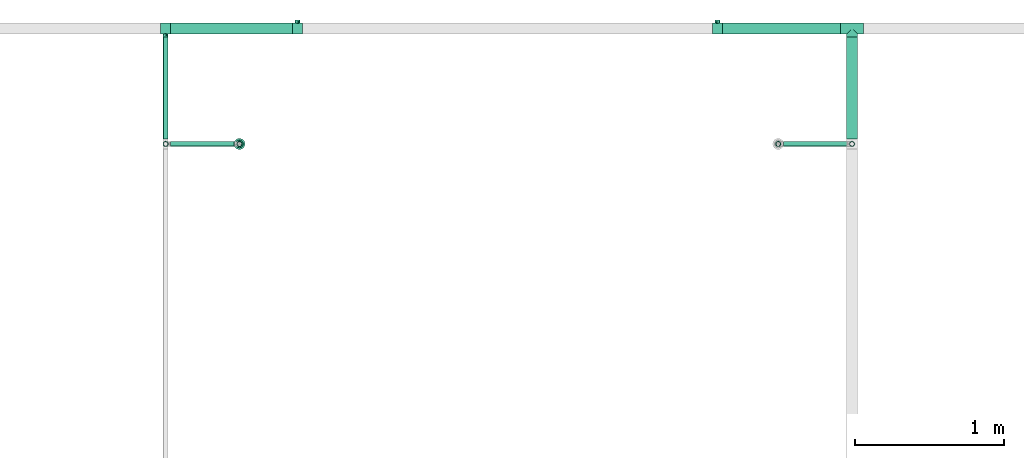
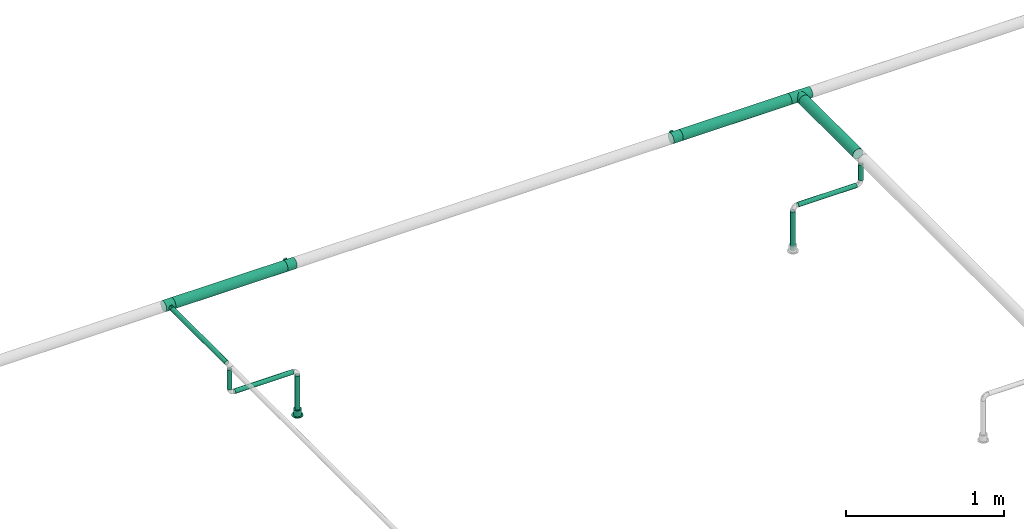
# One storey, part 35 of 95: 10 flow segments, 4 flow fittings, 1 flow terminal.
"""IFC2X3 building model written with IfcOpenShell, lengths in millimetres."""

from ifc_helpers import new_model, entity, si_unit, converted_unit, derived_unit, direction, frame, origin_with_axes, origin_2d_with_axis, place, context, subcontext, project, spatial, hollow_circle, extrude, open_shell, surface_model, source, transform, mapped, type_object, element, save


model = new_model("IFC2X3")

# Units and contexts
model_context = context("Model", 3, precision=0.01, world=frame((0.0, 4.29681676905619e-09, 0.0)), true_north=direction((4.01073788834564e-13, 1.0)))
plan_context = context("Plan", 3, precision=0.01, world=frame((0.0, 4.29681676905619e-09, 0.0)), true_north=direction((4.01073788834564e-13, 1.0)))
body_context = subcontext(model_context, "Body", "Model", "MODEL_VIEW")
ifc_project = project(units=[converted_unit("PLANEANGLEUNIT", "DEGREE", entity("IfcPositiveLengthMeasure", 0.0174532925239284), si_unit("PLANEANGLEUNIT", "RADIAN"), dimensions=[0, 0, 0, 0, 0, 0, 0]), si_unit("AREAUNIT", "SQUARE_METRE"), si_unit("LENGTHUNIT", "METRE", prefix="MILLI"), si_unit("MASSUNIT", "GRAM", prefix="KILO"), si_unit("POWERUNIT", "WATT"), si_unit("PRESSUREUNIT", "PASCAL"), si_unit("FORCEUNIT", "NEWTON", prefix="KILO"), si_unit("ELECTRICVOLTAGEUNIT", "VOLT"), si_unit("ELECTRICCURRENTUNIT", "AMPERE"), si_unit("THERMODYNAMICTEMPERATUREUNIT", "DEGREE_CELSIUS"), si_unit("TIMEUNIT", "SECOND"), si_unit("VOLUMEUNIT", "CUBIC_METRE"), derived_unit("LINEARVELOCITYUNIT", [(si_unit("LENGTHUNIT", "METRE"), 1), (si_unit("TIMEUNIT", "SECOND"), -1)]), derived_unit("VOLUMETRICFLOWRATEUNIT", [(si_unit("VOLUMEUNIT", "CUBIC_METRE"), 1), (si_unit("TIMEUNIT", "SECOND"), -1)]), derived_unit("THERMALTRANSMITTANCEUNIT", [(si_unit("POWERUNIT", "WATT"), 1), (si_unit("THERMODYNAMICTEMPERATUREUNIT", "KELVIN"), -1), (si_unit("AREAUNIT", "SQUARE_METRE"), -1)]), derived_unit("SOUNDPRESSUREUNIT", [(si_unit("PRESSUREUNIT", "PASCAL"), 1)])], contexts=[model_context, plan_context])

# Site, building, storey
site_placement = place(None, frame((0.0, -4.29681676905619e-09, 0.0), z_axis=(0.0, 0.0, 1.0), x_axis=(1.0, 0.0, 0.0)))
site = spatial("IfcSite", under=ifc_project, at=site_placement, CompositionType="ELEMENT")
building_placement = place(site_placement, frame((0.0, 4.29681676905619e-09, 0.0), z_axis=(0.0, 0.0, 1.0), x_axis=(1.0, 0.0, 0.0)))
building = spatial("IfcBuilding", under=site, at=building_placement, Name="mc-building", CompositionType="ELEMENT")
storey_placement = place(building_placement, frame((0.0, 0.0, 210900.0), z_axis=(0.0, 0.0, 1.0), x_axis=(1.0, 0.0, 0.0)))
storey = spatial("IfcBuildingStorey", under=building, at=storey_placement, Name="Nivå F", CompositionType="ELEMENT", Elevation=210900.0)

# Flow fittings
pipe_fitting_type = type_object("IfcPipeFittingType", Name="magi_pipe_fe_tee_centric_90_NOR", PredefinedType="JUNCTION")
shared_shape_1 = source(origin_with_axes(), body_context, "Body", "SurfaceModel", [
    surface_model("IfcShellBasedSurfaceModel", [(-76.2, 19.05, -32.99557), (-76.2, 9.86101, -36.80177), (-76.2, 0.0, -38.1), (-76.2, 26.94077, -26.94077), (-76.2, 36.80177, -9.86101), (-76.2, 32.99557, -19.05), (-76.2, -19.05, -32.99557), (-76.2, -26.94077, -26.94077), (-76.2, -9.86101, -36.80177), (-76.2, 38.1, 0.0), (-76.2, 36.80177, 9.86101), (-76.2, -38.1, 0.0), (-76.2, -36.80177, -9.86101), (-76.2, -32.99557, -19.05), (-76.2, 32.99557, 19.05), (-76.2, -36.80177, 9.86101), (-76.2, 19.05, 32.99557), (-76.2, 26.94077, 26.94077), (-76.2, 0.0, 38.1), (-76.2, 9.86101, 36.80177), (-76.2, -26.94077, 26.94077), (-76.2, -32.99557, 19.05), (-76.2, -9.86101, 36.80177), (-76.2, -19.05, 32.99557), (76.2, 0.0, -38.1), (76.2, -36.80177, 9.86101), (76.2, -38.1, 0.0), (76.2, 36.80177, -9.86101), (76.2, 9.86101, -36.80177), (76.2, 19.05, -32.99557), (76.2, 26.94077, -26.94077), (76.2, 32.99557, -19.05), (76.2, -9.86101, -36.80177), (76.2, -26.94077, -26.94077), (76.2, -19.05, -32.99557), (76.2, -32.99557, -19.05), (76.2, -36.80177, -9.86101), (76.2, 19.05, 32.99557), (76.2, 36.80177, 9.86101), (76.2, 32.99557, 19.05), (76.2, 0.0, 38.1), (76.2, 26.94077, 26.94077), (76.2, 9.86101, 36.80177), (76.2, -32.99557, 19.05), (76.2, -26.94077, 26.94077), (76.2, -19.05, 32.99557), (76.2, -9.86101, 36.80177), (76.2, 38.1, 0.0), (37.03376, -37.03376, 8.95045), (38.1, -38.1, 0.0), (76.2, -34.89867, 14.4555), (35.56052, -35.56052, 12.98504), (34.08727, -34.08727, 17.01964), (18.8305, -18.8305, 33.12132), (76.2, -22.99539, 29.96817), (29.78269, -29.78269, 23.76134), (76.2, -29.96817, 22.99539), (24.5894, -24.5894, 29.10277), (-35.56052, -35.56052, 12.98504), (-76.2, -34.89867, 14.4555), (-34.08727, -34.08727, 17.01964), (-37.03376, -37.03376, 8.95045), (-38.1, -38.1, 0.0), (-18.8305, -18.8305, 33.12132), (-76.2, -22.99539, 29.96817), (-29.78269, -29.78269, 23.76134), (-24.5894, -24.5894, 29.10277), (-76.2, -29.96817, 22.99539), (-12.71924, -12.71924, 35.91422), (6.40528, -6.40528, 37.55772), (12.71924, -12.71924, 35.91422), (0.0, 0.0, 38.1), (-6.40528, -6.40528, 37.55772), (6.40528, -6.40528, -37.55772), (0.0, 0.0, -38.1), (12.71924, -12.71924, -35.91422), (-24.5894, -24.5894, -29.10277), (-76.2, -22.99539, -29.96817), (-35.56052, -35.56052, -12.98504), (-37.03376, -37.03376, -8.95045), (-29.78269, -29.78269, -23.76134), (-76.2, -29.96817, -22.99539), (-6.40528, -6.40528, -37.55772), (-12.71924, -12.71924, -35.91422), (18.8305, -18.8305, -33.12132), (76.2, -22.99539, -29.96817), (24.5894, -24.5894, -29.10277), (-76.2, -34.89867, -14.4555), (-34.08727, -34.08727, -17.01964), (29.78269, -29.78269, -23.76134), (76.2, -29.96817, -22.99539), (37.03376, -37.03376, -8.95045), (35.56052, -35.56052, -12.98504), (34.08727, -34.08727, -17.01964), (76.2, -34.89867, -14.4555), (-18.8305, -18.8305, -33.12132), (0.0, -57.15, -38.1), (9.86101, -57.15, -36.80177), (19.05, -57.15, -32.99557), (26.94077, -57.15, -26.94077), (32.99557, -57.15, -19.05), (36.80177, -57.15, -9.86101), (0.0, -57.15, 38.1), (-26.94077, -57.15, -26.94077), (-9.86101, -57.15, -36.80177), (-19.05, -57.15, -32.99557), (-36.80177, -57.15, -9.86101), (-32.99557, -57.15, -19.05), (-32.99557, -57.15, 19.05), (-36.80177, -57.15, 9.86101), (-38.1, -57.15, 0.0), (19.05, -57.15, 32.99557), (36.80177, -57.15, 9.86101), (32.99557, -57.15, 19.05), (26.94077, -57.15, 26.94077), (9.86101, -57.15, 36.80177), (-26.94077, -57.15, 26.94077), (-19.05, -57.15, 32.99557), (-9.86101, -57.15, 36.80177), (38.1, -57.15, 0.0)], [open_shell([[[0, 1, 2]], [[3, 0, 2]], [[4, 5, 3]], [[6, 7, 8]], [[9, 4, 10]], [[11, 3, 2]], [[4, 3, 11]], [[11, 8, 7]], [[12, 11, 13]], [[7, 13, 11]], [[11, 2, 8]], [[11, 10, 4]], [[14, 10, 11]], [[14, 11, 15]], [[15, 16, 14]], [[17, 14, 16]], [[18, 19, 16]], [[20, 18, 21]], [[15, 21, 18]], [[22, 18, 23]], [[20, 23, 18]], [[18, 16, 15]], [[24, 25, 26]], [[27, 28, 29]], [[30, 31, 27]], [[30, 27, 29]], [[28, 25, 24]], [[32, 33, 34]], [[32, 24, 33]], [[35, 26, 36]], [[26, 35, 33]], [[24, 26, 33]], [[28, 27, 37]], [[27, 38, 37]], [[37, 38, 39]], [[37, 40, 28]], [[37, 39, 41]], [[40, 37, 42]], [[43, 40, 44]], [[25, 28, 43]], [[45, 40, 46]], [[40, 45, 44]], [[40, 43, 28]], [[38, 27, 47]], [[26, 25, 48]], [[48, 49, 26]], [[25, 50, 51]], [[50, 43, 52]], [[45, 53, 54]], [[44, 55, 56]], [[55, 44, 57]], [[43, 55, 52]], [[57, 44, 54]], [[15, 58, 59]], [[60, 59, 58]], [[61, 11, 62]], [[11, 61, 15]], [[15, 61, 58]], [[63, 23, 64]], [[65, 66, 20]], [[65, 67, 21]], [[20, 66, 64]], [[63, 68, 23]], [[65, 21, 60]], [[50, 52, 51]], [[54, 53, 57]], [[46, 40, 69]], [[25, 51, 48]], [[53, 45, 70]], [[69, 70, 46]], [[65, 20, 67]], [[69, 40, 71]], [[70, 45, 46]], [[14, 41, 39]], [[10, 39, 38]], [[16, 42, 37]], [[17, 37, 41]], [[42, 71, 40]], [[9, 38, 47]], [[72, 71, 18]], [[60, 21, 59]], [[72, 22, 68]], [[22, 72, 18]], [[22, 23, 68]], [[71, 19, 18]], [[63, 64, 66]], [[42, 19, 71]], [[16, 19, 42]], [[16, 37, 17]], [[14, 17, 41]], [[10, 14, 39]], [[38, 9, 10]], [[55, 43, 56]], [[3, 31, 30]], [[4, 27, 31]], [[9, 47, 27]], [[0, 30, 29]], [[24, 32, 73]], [[28, 24, 74]], [[73, 32, 75]], [[76, 7, 77]], [[29, 28, 1]], [[32, 34, 75]], [[24, 73, 74]], [[4, 31, 5]], [[0, 3, 30]], [[5, 31, 3]], [[9, 27, 4]], [[12, 78, 79]], [[80, 13, 81]], [[82, 83, 8]], [[74, 82, 2]], [[74, 2, 1]], [[2, 82, 8]], [[83, 6, 8]], [[1, 0, 29]], [[74, 1, 28]], [[84, 85, 86]], [[85, 33, 86]], [[87, 88, 78]], [[84, 34, 85]], [[89, 86, 33]], [[90, 35, 89]], [[34, 84, 75]], [[36, 91, 92]], [[91, 36, 26]], [[93, 94, 92]], [[49, 91, 26]], [[35, 93, 89]], [[76, 77, 95]], [[36, 92, 94]], [[77, 6, 95]], [[7, 76, 80]], [[7, 80, 81]], [[93, 35, 94]], [[95, 6, 83]], [[79, 62, 11]], [[12, 87, 78]], [[88, 87, 13]], [[12, 79, 11]], [[88, 13, 80]], [[89, 33, 90]], [[96, 97, 98]], [[96, 98, 99]], [[99, 100, 101]], [[99, 101, 96]], [[102, 103, 96]], [[104, 103, 105]], [[104, 96, 103]], [[103, 106, 107]], [[103, 108, 106]], [[106, 109, 110]], [[111, 96, 101]], [[112, 113, 101]], [[101, 113, 111]], [[111, 102, 96]], [[111, 113, 114]], [[102, 111, 115]], [[108, 102, 116]], [[109, 106, 108]], [[117, 102, 118]], [[102, 117, 116]], [[102, 108, 103]], [[112, 101, 119]], [[61, 62, 110]], [[109, 61, 110]], [[116, 117, 66]], [[65, 108, 116]], [[60, 109, 108]], [[68, 117, 118]], [[60, 61, 109]], [[66, 65, 116]], [[60, 108, 65]], [[68, 63, 117]], [[102, 71, 72]], [[68, 118, 72]], [[66, 117, 63]], [[72, 118, 102]], [[69, 102, 115]], [[111, 70, 115]], [[113, 112, 52]], [[55, 114, 113]], [[57, 111, 114]], [[48, 112, 119]], [[57, 53, 111]], [[70, 69, 115]], [[53, 70, 111]], [[49, 48, 119]], [[52, 55, 113]], [[48, 52, 112]], [[57, 114, 55]], [[102, 69, 71]], [[49, 119, 91]], [[101, 91, 119]], [[89, 100, 99]], [[99, 98, 86]], [[93, 101, 100]], [[75, 98, 97]], [[93, 91, 101]], [[86, 89, 99]], [[93, 100, 89]], [[75, 84, 98]], [[96, 74, 73]], [[75, 97, 73]], [[86, 98, 84]], [[73, 97, 96]], [[82, 96, 104]], [[105, 83, 104]], [[107, 106, 88]], [[80, 103, 107]], [[76, 105, 103]], [[79, 106, 110]], [[76, 95, 105]], [[83, 82, 104]], [[95, 83, 105]], [[62, 79, 110]], [[88, 80, 107]], [[79, 88, 106]], [[76, 103, 80]], [[96, 82, 74]]])]),
])
flow_fitting_placement = place(storey_placement, frame((534602.7875, 461774.3, 4310.0), z_axis=(0.0, 0.0, -1.0), x_axis=(-1.0, 0.0, 0.0)))
element("IfcFlowFitting", 1, at=flow_fitting_placement, inside=storey, type_object=pipe_fitting_type, Name="magi_pipe_fe_tee_centric_90_NOR", context=body_context, shape_type="MappedRepresentation", body=[
    mapped(shared_shape_1, transform((0.0, 0.0, 0.0), scale=1.0)),
])
shared_shape_2 = source(origin_with_axes(), body_context, "Body", "SurfaceModel", [
    surface_model("IfcShellBasedSurfaceModel", [(-33.8, 9.86101, -36.80177), (-33.8, 0.0, -38.1), (-33.8, 36.80177, -9.86101), (-33.8, 19.05, -32.99557), (-33.8, 32.99557, -19.05), (-33.8, 26.94077, -26.94077), (-33.8, -38.1, 0.0), (-33.8, -19.05, -32.99557), (-33.8, -26.94077, -26.94077), (-33.8, -9.86101, -36.80177), (-33.8, -32.99557, -19.05), (-33.8, -36.80177, -9.86101), (-33.8, 38.1, 0.0), (-33.8, 32.99557, 19.05), (-33.8, 36.80177, 9.86101), (-33.8, -36.80177, 9.86101), (-33.8, 19.05, 32.99557), (-33.8, 26.94077, 26.94077), (-33.8, 9.86101, 36.80177), (-33.8, 0.0, 38.1), (-33.8, -26.94077, 26.94077), (-33.8, -32.99557, 19.05), (-33.8, -9.86101, 36.80177), (-33.8, -19.05, 32.99557), (33.8, 0.0, -38.1), (33.8, 9.86101, -36.80177), (33.8, 19.05, -32.99557), (33.8, 26.94077, -26.94077), (33.8, 32.99557, -19.05), (33.8, 36.80177, -9.86101), (33.8, -38.1, 0.0), (33.8, -9.86101, -36.80177), (33.8, -26.94077, -26.94077), (33.8, -19.05, -32.99557), (33.8, -32.99557, -19.05), (33.8, -36.80177, -9.86101), (33.8, 36.80177, 9.86101), (33.8, 32.99557, 19.05), (33.8, 19.05, 32.99557), (33.8, 0.0, 38.1), (33.8, 26.94077, 26.94077), (33.8, 9.86101, 36.80177), (33.8, -26.94077, 26.94077), (33.8, -32.99557, 19.05), (33.8, -36.80177, 9.86101), (33.8, -19.05, 32.99557), (33.8, -9.86101, 36.80177), (33.8, 38.1, 0.0), (33.8, -37.45089, 4.9305), (15.86072, -37.65053, 5.83504), (16.9, -38.1, 0.0), (12.92726, -36.51183, 10.88559), (2.96752, -34.27545, 16.63742), (33.8, -34.89867, 14.4555), (8.48894, -35.18611, 14.61328), (-8.4904, -35.18646, 14.61243), (-33.8, -34.89867, 14.4555), (-15.8612, -37.65073, 5.83372), (-33.8, -37.45089, 4.9305), (-16.9, -38.1, 0.0), (-12.9317, -36.51341, 10.88031), (-2.97221, -34.27585, 16.63658), (-33.8, -37.45089, -4.9305), (-15.8612, -37.65073, -5.83372), (15.86072, -37.65053, -5.83504), (33.8, -37.45089, -4.9305), (-12.9317, -36.51341, -10.88031), (-33.8, -34.89867, -14.4555), (-8.4904, -35.18646, -14.61243), (2.96752, -34.27545, -16.63742), (8.48894, -35.18611, -14.61328), (33.8, -34.89867, -14.4555), (12.92726, -36.51183, -10.88559), (-2.97221, -34.27585, -16.63658), (4.37404, -57.15, -16.32415), (-16.9, -57.15, 0.0), (0.0, -57.15, -16.9), (14.63583, -57.15, -8.45), (8.45, -57.15, -14.63583), (16.32415, -57.15, -4.37404), (11.9501, -57.15, -11.9501), (-11.9501, -57.15, -11.9501), (-8.45, -57.15, -14.63583), (-4.37404, -57.15, -16.32415), (-14.63583, -57.15, -8.45), (-16.32415, -57.15, -4.37404), (16.9, -57.15, 0.0), (8.45, -57.15, 14.63583), (16.32415, -57.15, 4.37404), (14.63583, -57.15, 8.45), (-8.45, -57.15, 14.63583), (11.9501, -57.15, 11.9501), (4.37404, -57.15, 16.32415), (-16.32415, -57.15, 4.37404), (-11.9501, -57.15, 11.9501), (-14.63583, -57.15, 8.45), (0.0, -57.15, 16.9), (-4.37404, -57.15, 16.32415), (-16.3806, -37.87537, 2.91686), (-5.7313, -34.73116, 15.62451), (-0.00235, -34.27565, 16.637), (5.72823, -34.73078, 15.62535), (16.38036, -37.87526, 2.91752), (16.38036, -37.87526, -2.91752), (5.72823, -34.73078, -15.62535), (-0.00235, -34.27565, -16.637), (-5.7313, -34.73116, -15.62451), (-16.3806, -37.87537, -2.91686)], [open_shell([[[0, 1, 2]], [[3, 0, 2]], [[2, 4, 5]], [[3, 2, 5]], [[6, 2, 1]], [[7, 8, 9]], [[8, 1, 9]], [[10, 11, 8]], [[6, 8, 11]], [[8, 6, 1]], [[6, 12, 2]], [[13, 14, 12]], [[15, 13, 6]], [[16, 13, 15]], [[17, 13, 16]], [[18, 16, 19]], [[20, 19, 21]], [[16, 15, 21]], [[22, 19, 23]], [[20, 23, 19]], [[21, 19, 16]], [[12, 6, 13]], [[24, 25, 26]], [[24, 26, 27]], [[27, 28, 29]], [[24, 27, 30]], [[30, 27, 29]], [[31, 32, 33]], [[31, 24, 32]], [[34, 30, 35]], [[30, 34, 32]], [[24, 30, 32]], [[29, 36, 30]], [[36, 37, 30]], [[30, 37, 38]], [[38, 39, 30]], [[38, 37, 40]], [[39, 38, 41]], [[30, 42, 43]], [[44, 30, 43]], [[45, 39, 46]], [[45, 42, 30]], [[30, 39, 45]], [[36, 29, 47]], [[48, 44, 49]], [[50, 30, 48]], [[44, 51, 49]], [[43, 42, 52]], [[50, 48, 49]], [[44, 53, 51]], [[52, 54, 43]], [[42, 20, 52]], [[54, 53, 43]], [[55, 21, 56]], [[57, 58, 59]], [[6, 59, 58]], [[57, 60, 15]], [[55, 61, 21]], [[51, 53, 54]], [[15, 60, 56]], [[21, 61, 20]], [[56, 60, 55]], [[61, 52, 20]], [[57, 15, 58]], [[42, 23, 20]], [[19, 46, 39]], [[22, 45, 46]], [[18, 39, 41]], [[37, 36, 14]], [[17, 38, 40]], [[13, 40, 37]], [[41, 38, 16]], [[12, 36, 47]], [[23, 45, 22]], [[22, 46, 19]], [[18, 19, 39]], [[41, 16, 18]], [[16, 38, 17]], [[13, 17, 40]], [[14, 13, 37]], [[36, 12, 14]], [[45, 23, 42]], [[12, 47, 29]], [[29, 28, 2]], [[59, 62, 63]], [[27, 4, 28]], [[9, 24, 31]], [[0, 26, 25]], [[64, 35, 65]], [[24, 1, 25]], [[31, 33, 7]], [[27, 26, 5]], [[66, 67, 68]], [[4, 2, 28]], [[12, 29, 2]], [[27, 5, 4]], [[3, 26, 0]], [[26, 3, 5]], [[0, 25, 1]], [[9, 1, 24]], [[31, 7, 9]], [[33, 8, 7]], [[32, 34, 69]], [[70, 34, 71]], [[70, 69, 34]], [[35, 72, 71]], [[32, 69, 8]], [[30, 50, 65]], [[64, 72, 35]], [[64, 65, 50]], [[72, 70, 71]], [[73, 68, 10]], [[10, 8, 73]], [[68, 67, 10]], [[73, 8, 69]], [[66, 63, 11]], [[63, 62, 11]], [[62, 59, 6]], [[11, 67, 66]], [[32, 8, 33]], [[74, 75, 76]], [[77, 74, 78]], [[77, 79, 74]], [[77, 78, 80]], [[75, 74, 79]], [[76, 81, 82]], [[82, 83, 76]], [[84, 75, 85]], [[81, 76, 84]], [[75, 84, 76]], [[79, 86, 75]], [[87, 86, 88]], [[87, 88, 89]], [[90, 75, 87]], [[87, 89, 91]], [[90, 87, 92]], [[93, 94, 95]], [[94, 93, 90]], [[90, 96, 97]], [[93, 75, 90]], [[92, 96, 90]], [[87, 75, 86]], [[93, 98, 75]], [[60, 95, 94]], [[93, 95, 57]], [[94, 90, 55]], [[98, 59, 75]], [[57, 95, 60]], [[97, 61, 99]], [[55, 60, 94]], [[96, 52, 100]], [[87, 101, 92]], [[99, 90, 97]], [[99, 55, 90]], [[93, 57, 98]], [[92, 52, 96]], [[49, 89, 88]], [[102, 86, 50]], [[102, 49, 88]], [[91, 89, 51]], [[96, 61, 97]], [[101, 52, 92]], [[87, 54, 101]], [[87, 91, 54]], [[54, 91, 51]], [[51, 89, 49]], [[86, 102, 88]], [[100, 61, 96]], [[79, 103, 86]], [[72, 77, 80]], [[79, 77, 64]], [[80, 78, 70]], [[103, 50, 86]], [[64, 77, 72]], [[74, 69, 104]], [[70, 72, 80]], [[76, 73, 105]], [[82, 106, 83]], [[107, 75, 59]], [[104, 78, 74]], [[104, 70, 78]], [[68, 82, 81]], [[79, 64, 103]], [[63, 84, 85]], [[107, 63, 85]], [[84, 66, 81]], [[76, 69, 74]], [[83, 106, 73]], [[73, 76, 83]], [[68, 106, 82]], [[68, 81, 66]], [[66, 84, 63]], [[75, 107, 85]], [[105, 69, 76]]])]),
])
for number, where, z_axis, x_axis, name in (
    (2, (530887.325, 461774.3, 4310.0), (0.0, 0.0, 1.0), (-1.0, 0.0, 0.0), "magi_pipe_fe_tee_centric_90_NOR"),
    (3, (533700.0, 461774.3, 4310.0), (0.0, 0.0, 1.0), (-1.0, 0.0, 0.0), "magi_pipe_fe_tee_centric_90_NOR"),
    (4, (530002.76487, 461774.3, 4310.0), (0.0, 0.0, -1.0), (-1.0, 0.0, 0.0), "magi_pipe_fe_tee_centric_90_NOR"),
):
    element("IfcFlowFitting", number, at=place(storey_placement, frame(where, z_axis=z_axis, x_axis=x_axis)), inside=storey, type_object=pipe_fitting_type, Name=name, context=body_context, shape_type="MappedRepresentation", body=[
        mapped(shared_shape_2, transform((0.0, 0.0, 0.0), scale=1.0)),
    ])

# Flow segments
pipe_segment_type = type_object("IfcPipeSegmentType", Name="Stålrør normaltykke", PredefinedType="RIGIDSEGMENT")
shared_shape_3 = source(origin_with_axes(), body_context, "Body", "SweptSolid", [
    extrude(hollow_circle(Radius=16.9, WallThickness=2.0, at=origin_2d_with_axis()), frame((0.0, 0.0, 0.0), z_axis=(1.0, 0.0, 0.0), x_axis=(0.0, 1.0, 0.0)), (0.0, 0.0, 1.0), 427.2),
])
for number, where, z_axis, x_axis in (
    (5, (530463.77166, 461000.75899, 4100.0), (0.0, 0.0, 1.0), (-1.0, 0.0, 0.0)),
    (6, (534141.78071, 461000.75899, 4100.0), (0.0, 0.0, 1.0), (1.0, 0.0, 0.0)),
):
    element("IfcFlowSegment", number, at=place(storey_placement, frame(where, z_axis=z_axis, x_axis=x_axis)), inside=storey, type_object=pipe_segment_type, Name="Stålrør normaltykke", context=body_context, shape_type="MappedRepresentation", body=[
        mapped(shared_shape_3, transform((0.0, 0.0, 0.0), scale=1.0)),
    ])
shared_shape_4 = source(origin_with_axes(), body_context, "Body", "SweptSolid", [
    extrude(hollow_circle(Radius=16.9, WallThickness=2.0, at=origin_2d_with_axis()), frame((0.0, 0.0, 0.0), z_axis=(1.0, 0.0, 0.0), x_axis=(0.0, 1.0, 0.0)), (0.0, 0.0, 1.0), 296.9),
])
for number, where, z_axis, x_axis in (
    (7, (530497.57166, 461000.75899, 4066.20000000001), (0.0, -1.0, 0.0), (0.0, 0.0, -1.0)),
    (8, (534107.98071, 461000.75899, 4066.20000000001), (0.0, -1.0, 0.0), (0.0, 0.0, -1.0)),
):
    element("IfcFlowSegment", number, at=place(storey_placement, frame(where, z_axis=z_axis, x_axis=x_axis)), inside=storey, type_object=pipe_segment_type, Name="Stålrør normaltykke", context=body_context, shape_type="MappedRepresentation", body=[
        mapped(shared_shape_4, transform((0.0, 0.0, 0.0), scale=1.0)),
    ])
shared_shape_5 = source(origin_with_axes(), body_context, "Body", "SweptSolid", [
    extrude(hollow_circle(Radius=38.0, WallThickness=2.0, at=origin_2d_with_axis()), frame((0.0, 0.0, 0.0), z_axis=(1.0, 0.0, 0.0), x_axis=(0.0, 1.0, 0.0)), (0.0, 0.0, 1.0), 817.0),
])
flow_segment_1_placement = place(storey_placement, frame((530036.56487, 461774.3, 4310.0), z_axis=(0.0, 0.0, 1.0), x_axis=(1.0, 0.0, 0.0)))
element("IfcFlowSegment", 9, at=flow_segment_1_placement, inside=storey, type_object=pipe_segment_type, Name="Stålrør normaltykke", context=body_context, shape_type="MappedRepresentation", body=[
    mapped(shared_shape_5, transform((0.0, 0.0, 0.0), scale=1.0)),
])
shared_shape_6 = source(origin_with_axes(), body_context, "Body", "SweptSolid", [
    extrude(hollow_circle(Radius=16.9, WallThickness=2.0, at=origin_2d_with_axis()), frame((0.0, 0.0, 0.0), z_axis=(1.0, 0.0, 0.0), x_axis=(0.0, 1.0, 0.0)), (0.0, 0.0, 1.0), 150.8),
])
flow_segment_2_placement = place(storey_placement, frame((530002.76487, 461000.75899, 4284.64999999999), z_axis=(1.0, 0.0, 0.0), x_axis=(0.0, 0.0, -1.0)))
element("IfcFlowSegment", 10, at=flow_segment_2_placement, inside=storey, type_object=pipe_segment_type, Name="Stålrør normaltykke", context=body_context, shape_type="MappedRepresentation", body=[
    mapped(shared_shape_6, transform((0.0, 0.0, 0.0), scale=1.0)),
])
shared_shape_7 = source(origin_with_axes(), body_context, "Body", "SweptSolid", [
    extrude(hollow_circle(Radius=16.9, WallThickness=2.0, at=origin_2d_with_axis()), frame((0.0, 0.0, 0.0), z_axis=(1.0, 0.0, 0.0), x_axis=(0.0, 1.0, 0.0)), (0.0, 0.0, 1.0), 682.6),
])
flow_segment_3_placement = place(storey_placement, frame((530002.76487, 461034.55899, 4310.0), z_axis=(0.0, 0.0, 1.0), x_axis=(0.0, 1.0, 0.0)))
element("IfcFlowSegment", 11, at=flow_segment_3_placement, inside=storey, type_object=pipe_segment_type, Name="Stålrør normaltykke", context=body_context, shape_type="MappedRepresentation", body=[
    mapped(shared_shape_7, transform((0.0, 0.0, 0.0), scale=1.0)),
])
shared_shape_8 = source(origin_with_axes(), body_context, "Body", "SweptSolid", [
    extrude(hollow_circle(Radius=16.9, WallThickness=2.0, at=origin_2d_with_axis()), frame((0.0, 0.0, 0.0), z_axis=(1.0, 0.0, 0.0), x_axis=(0.0, 1.0, 0.0)), (0.0, 0.0, 1.0), 119.0),
])
flow_segment_4_placement = place(storey_placement, frame((534602.7875, 461000.75899, 4252.85000000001), z_axis=(-1.0, 0.0, 0.0), x_axis=(0.0, 0.0, -1.0)))
element("IfcFlowSegment", 12, at=flow_segment_4_placement, inside=storey, type_object=pipe_segment_type, Name="Stålrør normaltykke", context=body_context, shape_type="MappedRepresentation", body=[
    mapped(shared_shape_8, transform((0.0, 0.0, 0.0), scale=1.0)),
])
shared_shape_9 = source(origin_with_axes(), body_context, "Body", "SweptSolid", [
    extrude(hollow_circle(Radius=38.0, WallThickness=2.0, at=origin_2d_with_axis()), frame((0.0, 0.0, 0.0), z_axis=(1.0, 0.0, 0.0), x_axis=(0.0, 1.0, 0.0)), (0.0, 0.0, 1.0), 682.6),
])
flow_segment_5_placement = place(storey_placement, frame((534602.7875, 461034.55899, 4310.0), z_axis=(0.0, 0.0, 1.0), x_axis=(0.0, 1.0, 0.0)))
element("IfcFlowSegment", 13, at=flow_segment_5_placement, inside=storey, type_object=pipe_segment_type, Name="Stålrør normaltykke", context=body_context, shape_type="MappedRepresentation", body=[
    mapped(shared_shape_9, transform((0.0, 0.0, 0.0), scale=1.0)),
])
shared_shape_10 = source(origin_with_axes(), body_context, "Body", "SweptSolid", [
    extrude(hollow_circle(Radius=38.0, WallThickness=2.0, at=origin_2d_with_axis()), frame((0.0, 0.0, 0.0), z_axis=(1.0, 0.0, 0.0), x_axis=(0.0, 1.0, 0.0)), (0.0, 0.0, 1.0), 792.8),
])
flow_segment_6_placement = place(storey_placement, frame((533733.8, 461774.3, 4310.0), z_axis=(0.0, 0.0, 1.0), x_axis=(1.0, 0.0, 0.0)))
element("IfcFlowSegment", 14, at=flow_segment_6_placement, inside=storey, type_object=pipe_segment_type, Name="Stålrør normaltykke", context=body_context, shape_type="MappedRepresentation", body=[
    mapped(shared_shape_10, transform((0.0, 0.0, 0.0), scale=1.0)),
])

# Flow terminal
fire_suppression_terminal_type = type_object("IfcFireSuppressionTerminalType", Name="68DGR-STD-SKJULT I HIMLING", PredefinedType="NOTDEFINED")
shared_shape_11 = source(origin_with_axes(), body_context, "Body", "SurfaceModel", [
    surface_model("IfcShellBasedSurfaceModel", [(-26.0, 0.0, -46.0), (-25.11407, -6.72929, -46.0), (-25.11407, -6.72929, 0.0), (6.72929, -25.11407, 0.0), (6.72929, -25.11407, -46.0), (13.0, -22.51666, -46.0), (22.51666, -13.0, -46.0), (22.51666, -13.0, 0.0), (18.38478, -18.38478, 0.0), (25.11407, -6.72929, 0.0), (25.11407, -6.72929, -46.0), (26.0, 0.0, -46.0), (26.0, 0.0, 0.0), (25.11407, 6.72929, -46.0), (22.51666, 13.0, 0.0), (25.11407, 6.72929, 0.0), (13.0, 22.51666, -46.0), (6.72929, 25.11407, -46.0), (6.72929, 25.11407, 0.0), (18.38478, 18.38478, 0.0), (22.51666, 13.0, -46.0), (-25.11407, 6.72929, 0.0), (-25.11407, 6.72929, -46.0), (-26.16295, -26.16295, 5.0), (35.73926, -9.57631, 5.0), (37.0, 0.0, 5.0), (13.0, 22.51666, 0.0), (-26.0, 0.0, 0.0), (-13.0, 22.51666, 0.0), (-6.72929, 25.11407, 0.0), (0.0, 26.0, 0.0), (-22.51666, 13.0, 0.0), (-18.38478, 18.38478, 0.0), (13.0, -22.51666, 0.0), (0.0, -26.0, 0.0), (-22.51666, -13.0, 0.0), (-18.38478, -18.38478, 0.0), (-13.0, -22.51666, 0.0), (-6.72929, -25.11407, 0.0), (0.0, -26.0, -46.0), (18.38478, -18.38478, -46.0), (-18.38478, -18.38478, -46.0), (-13.0, -22.51666, -46.0), (-6.72929, -25.11407, -46.0), (-22.51666, -13.0, -46.0), (18.38478, 18.38478, -46.0), (-22.51666, 13.0, -46.0), (-18.38478, 18.38478, -46.0), (-13.0, 22.51666, -46.0), (-6.72929, 25.11407, -46.0), (0.0, 26.0, -46.0), (18.5, 32.04294, 5.0), (9.57631, 35.73926, 5.0), (35.73926, 9.57631, 5.0), (26.16295, 26.16295, 5.0), (32.04294, 18.5, 5.0), (-35.73926, -9.57631, 5.0), (-18.5, 32.04294, 5.0), (-9.57631, 35.73926, 5.0), (0.0, 37.0, 5.0), (-32.04294, 18.5, 5.0), (-35.73926, 9.57631, 5.0), (-26.16295, 26.16295, 5.0), (-37.0, 0.0, 5.0), (32.04294, -18.5, 5.0), (0.0, -37.0, 5.0), (26.16295, -26.16295, 5.0), (18.5, -32.04294, 5.0), (9.57631, -35.73926, 5.0), (-9.57631, -35.73926, 5.0), (-32.04294, -18.5, 5.0), (-18.5, -32.04294, 5.0), (18.5, -32.04294, 0.0), (9.57631, -35.73926, 0.0), (0.0, -37.0, 0.0), (32.04294, -18.5, 0.0), (-26.16295, -26.16295, 0.0), (26.16295, -26.16295, 0.0), (-35.73926, 9.57631, 0.0), (-18.5, -32.04294, 0.0), (-9.57631, -35.73926, 0.0), (-32.04294, -18.5, 0.0), (-35.73926, -9.57631, 0.0), (-37.0, 0.0, 0.0), (35.73926, -9.57631, 0.0), (35.73926, 9.57631, 0.0), (32.04294, 18.5, 0.0), (18.5, 32.04294, 0.0), (9.57631, 35.73926, 0.0), (26.16295, 26.16295, 0.0), (-32.04294, 18.5, 0.0), (-26.16295, 26.16295, 0.0), (-9.57631, 35.73926, 0.0), (0.0, 37.0, 0.0), (-18.5, 32.04294, 0.0), (37.0, 0.0, 0.0)], [open_shell([[[0, 1, 2]], [[3, 4, 5]], [[6, 7, 8]], [[9, 7, 10]], [[11, 12, 9]], [[13, 14, 15]], [[15, 12, 11]], [[16, 17, 18]], [[19, 14, 20]], [[21, 22, 0]], [[23, 24, 25]], [[19, 26, 18]], [[19, 18, 21]], [[27, 15, 19]], [[14, 19, 15]], [[19, 21, 27]], [[28, 21, 29]], [[18, 30, 29]], [[31, 21, 32]], [[28, 32, 21]], [[29, 21, 18]], [[12, 15, 27]], [[8, 7, 9]], [[33, 8, 9]], [[34, 3, 33]], [[9, 34, 33]], [[27, 34, 9]], [[2, 35, 27]], [[36, 27, 35]], [[37, 38, 36]], [[34, 27, 36]], [[36, 38, 34]], [[12, 27, 9]], [[5, 4, 39]], [[5, 39, 22]], [[10, 6, 40]], [[5, 10, 40]], [[39, 41, 22]], [[42, 41, 43]], [[41, 39, 43]], [[1, 0, 44]], [[44, 0, 22]], [[22, 41, 44]], [[10, 5, 22]], [[45, 13, 10]], [[20, 13, 45]], [[17, 16, 45]], [[10, 22, 45]], [[45, 22, 17]], [[46, 47, 22]], [[48, 22, 47]], [[48, 49, 22]], [[49, 17, 22]], [[49, 50, 17]], [[11, 10, 13]], [[46, 22, 21]], [[46, 31, 47]], [[49, 48, 28]], [[32, 48, 47]], [[50, 49, 29]], [[21, 0, 27]], [[21, 31, 46]], [[31, 32, 47]], [[48, 32, 28]], [[28, 29, 49]], [[29, 30, 50]], [[16, 26, 45]], [[13, 20, 14]], [[19, 20, 45]], [[11, 13, 15]], [[30, 18, 17]], [[18, 26, 16]], [[26, 19, 45]], [[50, 30, 17]], [[11, 9, 10]], [[10, 7, 6]], [[3, 39, 4]], [[6, 8, 40]], [[3, 5, 33]], [[8, 33, 5]], [[5, 40, 8]], [[3, 34, 39]], [[42, 43, 38]], [[42, 37, 41]], [[1, 44, 35]], [[36, 44, 41]], [[34, 38, 43]], [[38, 37, 42]], [[37, 36, 41]], [[36, 35, 44]], [[1, 35, 2]], [[2, 27, 0]], [[39, 34, 43]], [[51, 52, 53]], [[54, 51, 55]], [[56, 52, 57]], [[55, 51, 53]], [[52, 56, 53]], [[58, 57, 59]], [[57, 52, 59]], [[60, 61, 62]], [[57, 62, 63]], [[62, 61, 63]], [[53, 23, 25]], [[64, 24, 65]], [[66, 64, 67]], [[65, 68, 67]], [[64, 65, 67]], [[69, 65, 24]], [[70, 23, 56]], [[56, 57, 63]], [[71, 69, 23]], [[23, 53, 56]], [[24, 23, 69]], [[72, 73, 74]], [[75, 72, 74]], [[76, 75, 74]], [[77, 72, 75]], [[75, 76, 78]], [[79, 76, 80]], [[76, 74, 80]], [[81, 82, 76]], [[82, 78, 76]], [[83, 78, 82]], [[75, 78, 84]], [[85, 84, 78]], [[86, 85, 87]], [[85, 88, 87]], [[89, 86, 87]], [[88, 85, 78]], [[90, 91, 78]], [[91, 88, 78]], [[92, 93, 94]], [[88, 91, 94]], [[88, 94, 93]], [[95, 84, 85]], [[83, 61, 78]], [[78, 60, 90]], [[94, 91, 57]], [[62, 91, 90]], [[92, 94, 58]], [[61, 60, 78]], [[83, 63, 61]], [[94, 57, 58]], [[57, 91, 62]], [[90, 60, 62]], [[92, 58, 59]], [[59, 93, 92]], [[93, 52, 88]], [[88, 51, 87]], [[86, 89, 55]], [[54, 89, 87]], [[85, 86, 53]], [[51, 54, 87]], [[88, 52, 51]], [[85, 53, 25]], [[53, 86, 55]], [[89, 54, 55]], [[85, 25, 95]], [[59, 52, 93]], [[95, 24, 84]], [[84, 64, 75]], [[72, 77, 67]], [[66, 77, 75]], [[73, 72, 68]], [[24, 64, 84]], [[95, 25, 24]], [[72, 67, 68]], [[67, 77, 66]], [[75, 64, 66]], [[73, 68, 65]], [[65, 74, 73]], [[74, 69, 80]], [[80, 71, 79]], [[81, 76, 70]], [[23, 76, 79]], [[82, 81, 56]], [[71, 23, 79]], [[80, 69, 71]], [[82, 56, 63]], [[56, 81, 70]], [[76, 23, 70]], [[82, 63, 83]], [[65, 69, 74]]])]),
])
flow_terminal_placement = place(storey_placement, frame((530497.57166, 461000.75899, 3759.89999999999), z_axis=(0.0, 0.0, -1.0), x_axis=(1.0, 0.0, 0.0)))
element("IfcFlowTerminal", 15, at=flow_terminal_placement, inside=storey, type_object=fire_suppression_terminal_type, Name="68DGR-STD-SKJULT I HIMLING", context=body_context, shape_type="MappedRepresentation", body=[
    mapped(shared_shape_11, transform((0.0, 0.0, 0.0), scale=1.0)),
])

save(model, "model.ifc")
